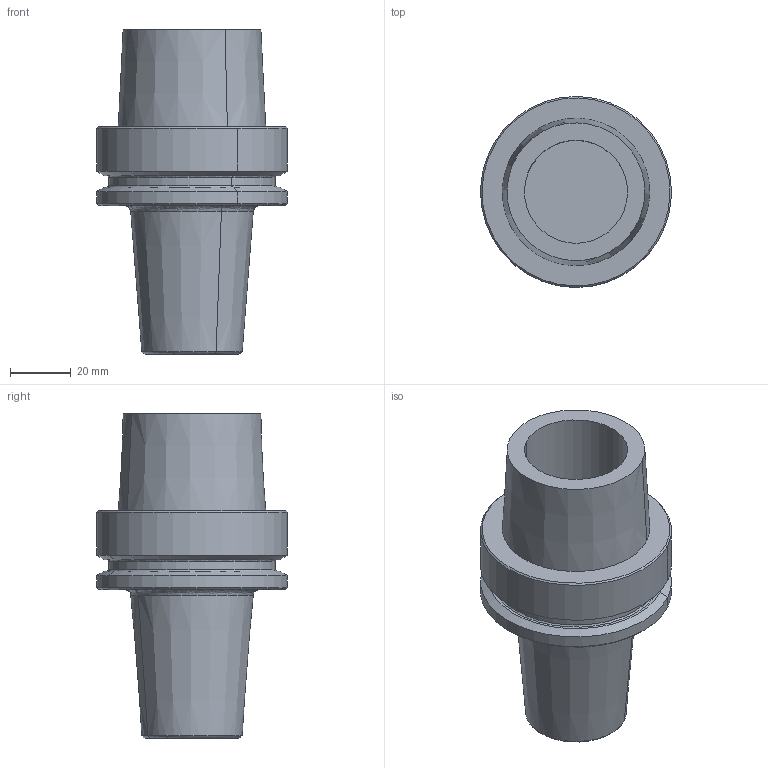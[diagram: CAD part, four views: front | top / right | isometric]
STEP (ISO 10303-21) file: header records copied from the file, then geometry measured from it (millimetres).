
FILE_DESCRIPTION(('CATIA V5 STEP','CAx-IF Rec.Pracs.--- Model Styling and Organization---1.2---2011-12-15'),'2;1');
FILE_NAME('I:\isr\design\admin8\users\weaam_s\4506030L.stp','2018-04-02T15:03:15+00:00',('none'),('none'),'CATIA Version 5 Release 21 SP 5 (IN-10)','CATIA V5 STEP AP214','none');
FILE_SCHEMA(('AUTOMOTIVE_DESIGN { 1 0 10303 214 1 1 1 1 }'));
Length unit declared in the file: millimetre
Products named in the file (1): HSK A63 SRKIN20X75
Bounding box: 62.98 x 62.98 x 107 mm (x, y, z)
Volume: 131780.7 mm3; surface area: 29345.9 mm2
Topology: 1 solids, 1 shells, 38 faces, 74 edges, 44 vertices
Faces by surface type: cone 12, cylinder 10, plane 8, revolution 8
Entity records: 1143 total; most frequent: CARTESIAN_POINT 356, ORIENTED_EDGE 148, DIRECTION 116, EDGE_CURVE 74, AXIS2_PLACEMENT_3D 66, CIRCLE 44, EDGE_LOOP 44, VERTEX_POINT 44
